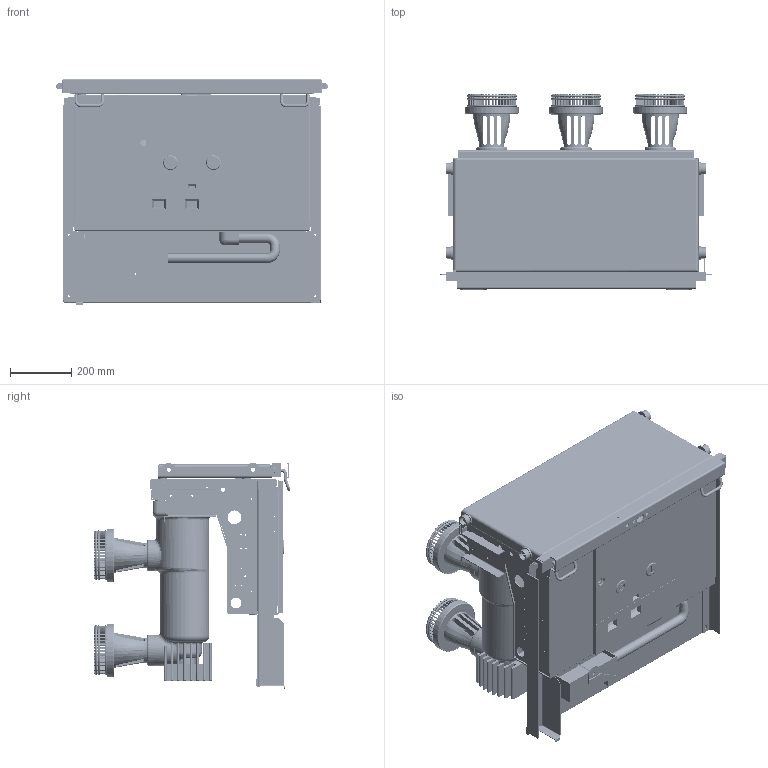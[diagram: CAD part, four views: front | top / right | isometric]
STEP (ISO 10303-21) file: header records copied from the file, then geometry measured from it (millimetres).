
FILE_DESCRIPTION(('STEP AP242'), '1');
FILE_NAME('ÂÂ-×ÝÀÇ-2-C-10-31_5 (40)_3150 âûêàòíîé ñ êîíòàêòàìè', '2023-05-12T05:45:55', (' '), (''), 'C3D Converter', 'C3D Toolkit', '');
FILE_SCHEMA(('AP242_MANAGED_MODEL_BASED_3D_ENGINEERING_MIM_LF { 1 0 10303 442 1 1 4 }'));
Length unit declared in the file: millimetre
Products named in the file (68): 5XDB0401073-1_8XDB0001; 5XDB0401073-1_8XDB0002; 8XDB1420558-1-SOLI0001; 8XDB1420558-2-SOLI0001; 5XDB0401073-1_8XDB0003; 1000-1_24-1-SOLID10001; 5XDB0401073-1_8XDB0004; _3-SOLID1000; 5XDB0401073-1_8XDB0005; 5XDB5510057109-1-S0001; 5XDB5510057109-1-S0002; 5XDB0401073-1_8XDB0006; _1-SOLID100; _2-SOLID100; 5XDB5510057109-3-S0001; 5XDB5510057109-3-S0002; _3-SOLID100; _4-SOLID100; _5-SOLID100; _6-SOLID100; _1-SOLID10003; _1-SOLID20002; 5XDB0401073-1_8XDB0007; _2-SOLID10008; 8XDB1510632G-1-SOL0001; 8XDB1510339G-1-SOL0001; 5XDB5510057109-5-S0001; 5XDB5510057109-5-S0002; 1000-1_-1-SOLID10002; 1000-1_-1-SOLID10003; 1000-1_-2-SOLID10002; 1000-1_-3-SOLID10001; 1000-1_-4-SOLID10001; 5XDB0401073-1_8XDB0008; 5XDB5510057109-6-S0001; 5XDB5510057109-6-S0002; 58-1-SOLID100; 5XDB5510057109-4-S0001; 5XDB5510057109-4-S0002; _1-SOLID10008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
Assembly tree (70 placements, depth 3):
  (unnamed)
    5XDB0401073-1_8XDB0001
    5XDB0401073-1_8XDB0002
    8XDB1420558-1-SOLI0001
    8XDB1420558-2-SOLI0001
    5XDB0401073-1_8XDB0003
    1000-1_24-1-SOLID10001
    5XDB0401073-1_8XDB0004
    _3-SOLID1000  x3
    5XDB0401073-1_8XDB0005
    5XDB5510057109-1-S0001
    5XDB5510057109-1-S0002
    5XDB0401073-1_8XDB0006
    _1-SOLID100
    _2-SOLID100
    5XDB5510057109-3-S0001
    5XDB5510057109-3-S0002
    _3-SOLID100
    _4-SOLID100
    _5-SOLID100
    _6-SOLID100
    _1-SOLID10003
    _1-SOLID20002
    5XDB0401073-1_8XDB0007
    _1-SOLID100
    _2-SOLID100
    _3-SOLID100
    _4-SOLID100
    _2-SOLID10008
    _5-SOLID100
    _6-SOLID100
    8XDB1510632G-1-SOL0001
    8XDB1510339G-1-SOL0001
    5XDB5510057109-5-S0001
    5XDB5510057109-5-S0002
    1000-1_-1-SOLID10002
    1000-1_-1-SOLID10003
    1000-1_-2-SOLID10002
    1000-1_-3-SOLID10001
    1000-1_-4-SOLID10001
    5XDB0401073-1_8XDB0008
    5XDB5510057109-6-S0001
    5XDB5510057109-6-S0002
    58-1-SOLID100
    5XDB5510057109-4-S0001
    5XDB5510057109-4-S0002
    _1-SOLID10008
    5XDB5510057109-2-S0001
    5XDB5510057109-2-S0002
    2SLDPRT-1-SOLID1000
    2SLDPRT-2-SOLID1000
    2SLDPRT-3-SOLID1000
    2SLDPRT-4-SOLID1000
    2SLDPRT-5-SOLID1000
    2SLDPRT-6-SOLID1000
    5XDB0401073-1_8XDB0009
    _1-SOLID10012
    8XDB1510338G-1-SOL0001
    1000-1_1000-1-SOLI0001
    5XDB0401073-1_8XDB0010
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Bounding box: 885 x 642.79 x 741 mm (x, y, z)
Volume: 19636510.7 mm3; surface area: 9143603.3 mm2
Topology: 56 solids, 69 shells, 10420 faces, 33979 edges, 23258 vertices
Faces by surface type: plane 5753, cylinder 4268, bspline 211, torus 138, cone 20, sphere 18, revolution 12
Full cylindrical faces by diameter (mm): 3 x8, 4 x6, 4.2 x4, 4.6 x2, 4.8 x2, 5 x43, 6 x9, 6.5 x1, 6.8 x4, 7 x6, 8 x7, 8.5 x1, 9 x38, 10 x26, 10.2 x2, 11 x8, 12 x2, 13 x18, 14 x11, 15.956 x1, 16 x2, 17.5 x2, 18 x6, 18.5 x2, 20 x11, 22 x4, 22.126 x1, 23 x6, 24 x1, 28 x4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
Entity records: 753077 total; most frequent: CARTESIAN_POINT 394368, ORIENTED_EDGE 64636, DIRECTION 47326, EDGE_CURVE 32354, VERTEX_POINT 22436, AXIS2_PLACEMENT_3D 16344, LINE 14626, VECTOR 14626
